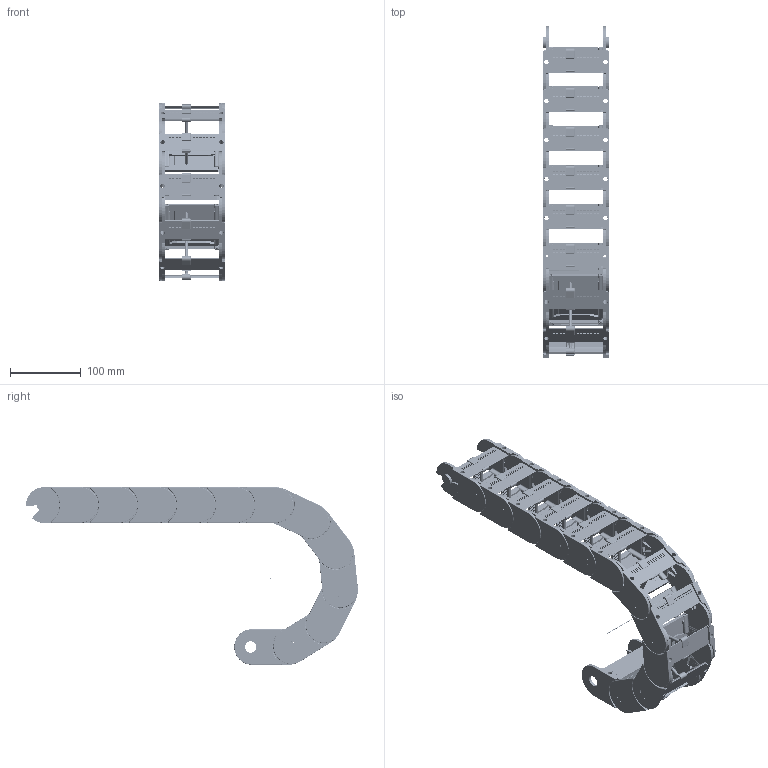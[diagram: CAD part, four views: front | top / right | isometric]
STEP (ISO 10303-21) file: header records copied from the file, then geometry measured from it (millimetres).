
FILE_DESCRIPTION((''),'2;1');
FILE_NAME('C:\Uebbing\PARAMETERKETTEN\KOLIBRI\Kol_50_095_2\KOLIBRI 50_095_2_R100.stp','2012-03-05T09:45:33',('Uebbing'),(''),'Autodesk Inventor 10','Autodesk Inventor 10','');
FILE_SCHEMA(('AUTOMOTIVE_DESIGN { 1 0 10303 214 1 1 1 1 }'));
Length unit declared in the file: millimetre
Products named in the file (6): KOLIBRI 50_095_2_PARAMETRISCH; Achse; Kol_50_095_2; Kol_50_095_2_Lasche; Kol_50_95_0_Klappsteg; Kol_50_095_2 PZ 
Assembly tree (16 placements, depth 3):
  KOLIBRI 50_095_2_PARAMETRISCH
    Achse
    Kol_50_095_2  x12
      Kol_50_095_2_Lasche
      Kol_50_95_0_Klappsteg
      Kol_50_095_2 PZ 
Bounding box: 92.88 x 467.54 x 250.25 mm (x, y, z)
Volume: 707631.2 mm3; surface area: 477635.6 mm2
Topology: 37 solids, 37 shells, 10407 faces, 27424 edges, 17883 vertices
Faces by surface type: plane 5582, cylinder 2293, bspline 2220, torus 240, sphere 48, cone 24
Full cylindrical faces by diameter (mm): 1 x1, 2.021 x12, 3.549 x12, 4 x12, 4.036 x12, 4.221 x24, 6.231 x12, 16.08 x12, 16.18 x12
Entity records: 31686 total; most frequent: CARTESIAN_POINT 10423, ORIENTED_EDGE 4498, DIRECTION 4143, EDGE_CURVE 2249, VECTOR 1599, LINE 1599, VERTEX_POINT 1478, AXIS2_PLACEMENT_3D 1272
